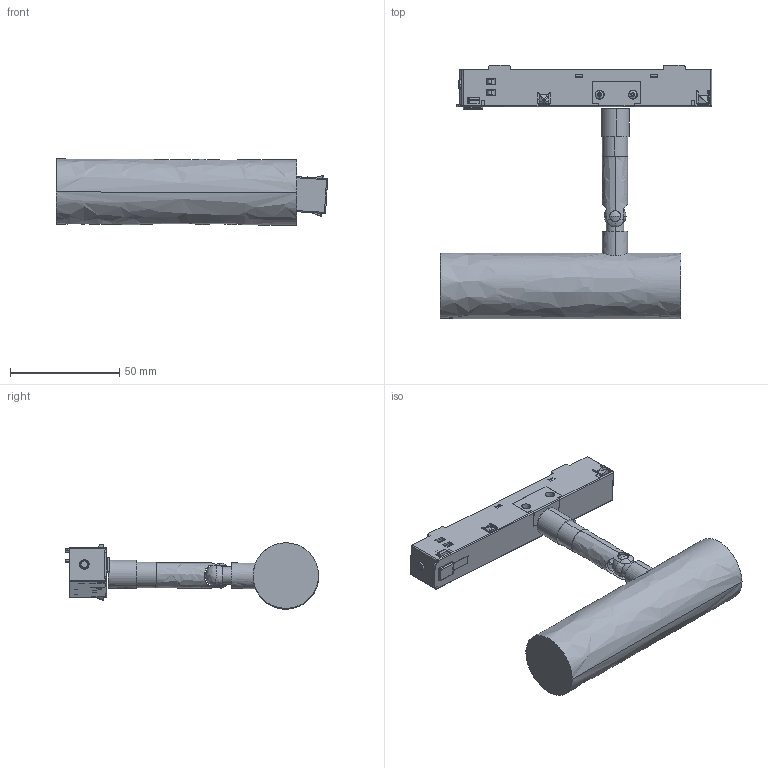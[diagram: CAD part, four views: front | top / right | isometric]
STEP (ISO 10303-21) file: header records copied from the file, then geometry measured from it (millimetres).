
FILE_DESCRIPTION (( 'STEP AP214' ), '1' );
FILE_NAME ('MAHOV_track.STEP', '2026-02-09T09:26:55', ( '' ), ( '' ), 'SwSTEP 2.0', 'SolidWorks 2023', '' );
FILE_SCHEMA (( 'AUTOMOTIVE_DESIGN' ));
Length unit declared in the file: millimetre
Products named in the file (3): MAHOV; TRACK_perfil; MAHOV_track
Assembly tree (2 placements, depth 2):
  MAHOV_track
    TRACK_perfil
    MAHOV
Bounding box: 124.27 x 116.04 x 30.37 mm (x, y, z)
Surface area: 44751.4 mm2 (no closed solid volume)
Topology: 0 solids, 35 shells, 1599 faces, 4458 edges, 2907 vertices
Faces by surface type: plane 1213, cylinder 217, bspline 123, cone 40, torus 6
Entity records: 57780 total; most frequent: CARTESIAN_POINT 19718, ORIENTED_EDGE 8852, DIRECTION 6203, EDGE_CURVE 4437, VERTEX_POINT 2907, LINE 2569, VECTOR 2569, AXIS2_PLACEMENT_3D 1817
